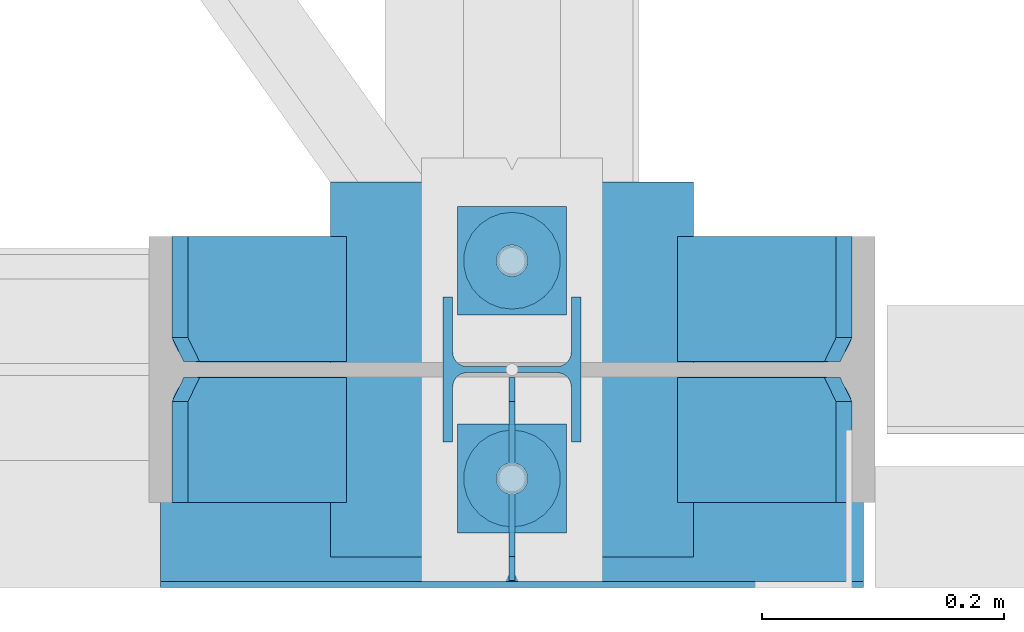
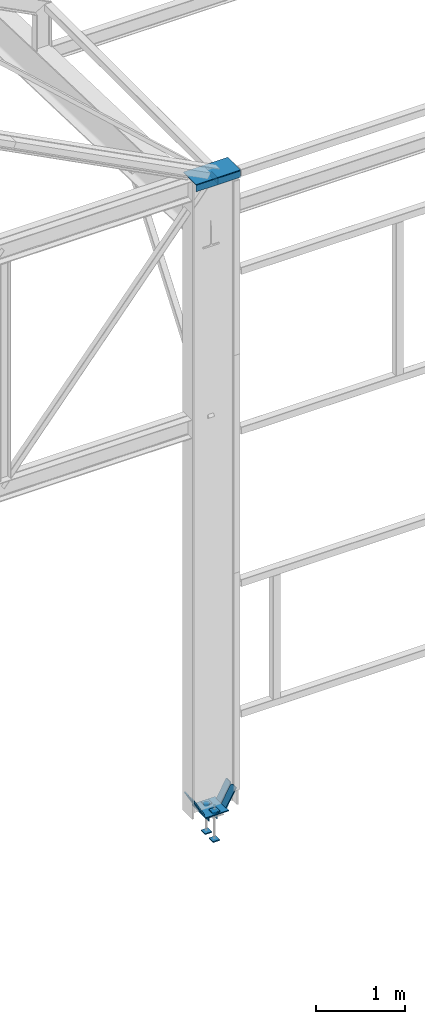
# One storey, part 80 of 123: 13 discrete accessories, 3 mechanical fasteners, 2 elements without a shape of their own.
"""IFC2X3 building model written with IfcOpenShell, lengths in millimetres."""

from ifc_helpers import new_model, si_unit, frame, origin_with_axes, origin_2d_with_axis, place, context, subcontext, project, spatial, polyline, rectangle, circle, i_section, outline, extrude, boolean, source, transform, mapped, material, type_object, element, aggregate, save


model = new_model("IFC2X3")

# Units and contexts
model_context = context("Model", 3, precision=1e-05, world=origin_with_axes())
body_context = subcontext(model_context, "Body", "Model", "MODEL_VIEW")
ifc_project = project(units=[si_unit("LENGTHUNIT", "METRE", prefix="MILLI"), si_unit("AREAUNIT", "SQUARE_METRE"), si_unit("VOLUMEUNIT", "CUBIC_METRE"), si_unit("MASSUNIT", "GRAM", prefix="KILO"), si_unit("TIMEUNIT", "SECOND"), si_unit("PLANEANGLEUNIT", "RADIAN"), si_unit("SOLIDANGLEUNIT", "STERADIAN"), si_unit("THERMODYNAMICTEMPERATUREUNIT", "DEGREE_CELSIUS"), si_unit("LUMINOUSINTENSITYUNIT", "LUMEN")], contexts=[model_context])

# Site, building, storey
site_placement = place(None, origin_with_axes())
site = spatial("IfcSite", under=ifc_project, at=site_placement, Name="Undefined", CompositionType="ELEMENT")
building_placement = place(site_placement, origin_with_axes())
building = spatial("IfcBuilding", under=site, at=building_placement, Name="Undefined", CompositionType="ELEMENT")
storey_placement = place(building_placement, origin_with_axes())
storey = spatial("IfcBuildingStorey", under=building, at=storey_placement, Name="Undefined", CompositionType="ELEMENT", Elevation=0.0)

# Assembly, discrete accessory
assembly_1_placement = place(storey_placement, origin_with_axes())
assembly_1 = element("IfcElementAssembly", 1, at=assembly_1_placement, inside=storey, Name="Steel Assembly", AssemblyPlace="NOTDEFINED", PredefinedType="RIGID_FRAME")
ifc_material_1 = material(Name="STEEL/S235-E24")
discrete_accessory_type_1 = type_object("IfcDiscreteAccessoryType", Name="RAIDISSEUR")
discrete_accessory_1_placement = place(assembly_1_placement, frame((28880.0, -6.5, 8450.0), z_axis=(-1.0, 0.0, 0.0), x_axis=(0.0, -1.0, 0.0)))
discrete_accessory_1 = element("IfcDiscreteAccessory", 2, at=discrete_accessory_1_placement, type_object=discrete_accessory_type_1, material=ifc_material_1, Name="RAIDISSEUR", ObjectType="PL5*90", context=body_context, shape_type="SweptSolid", body=[
    extrude(outline(polyline([(0.0, 0.0), (168.0, 0.0), (168.0, 70.0), (148.0, 90.0), (20.000000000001, 90.0), (0.0, 70.0), (0.0, 0.0)])), frame((0.0, 0.0, -2.5), z_axis=(0.0, 0.0, 1.0), x_axis=(1.0, 0.0, 0.0)), (0.0, 0.0, 1.0), 5.0),
])

assembly_2_placement = place(storey_placement, origin_with_axes())
assembly_2 = element("IfcElementAssembly", 3, at=assembly_2_placement, inside=storey, Name="Steel Assembly", AssemblyPlace="NOTDEFINED", PredefinedType="RIGID_FRAME")
ifc_material_2 = material(Name="STEEL/S275-E28")
discrete_accessory_type_2 = type_object("IfcDiscreteAccessoryType", Name="BECHE")
discrete_accessory_2_placement = place(assembly_2_placement, frame((28879.99999991, 0.0, -260.0), z_axis=(-1.0, 0.0, 0.0), x_axis=(0.0, 0.0, -1.0)))
discrete_accessory_2 = element("IfcDiscreteAccessory", 4, at=discrete_accessory_2_placement, type_object=discrete_accessory_type_2, material=ifc_material_2, Name="BECHE", ObjectType="HEA120", context=body_context, shape_type="SweptSolid", body=[
    extrude(i_section(OverallWidth=120.0, OverallDepth=114.0, WebThickness=5.0, FlangeThickness=8.0, FilletRadius=12.0, at=origin_2d_with_axis()), frame((120.0, 0.0, 0.0), z_axis=(-1.0, 0.0, 0.0), x_axis=(0.0, -1.0, 0.0)), (0.0, 0.0, 1.0), 120.0),
])

# Mechanical fastener
ifc_material_3 = material(Name="6.8")
discrete_accessory_type_3 = type_object("IfcDiscreteAccessoryType", Name="Bolt assembly")
shared_shape_1 = source(origin_with_axes(), body_context, "Body", "SweptSolid", [
    extrude(circle(Radius=40.0, at=origin_2d_with_axis()), frame((0.0, -15.0, 0.0), z_axis=(0.0, 1.0, 0.0), x_axis=(1.0, 0.0, 0.0)), (0.0, 0.0, 1.0), 15.1),
])
mechanical_fastener_1_placement = place(assembly_1_placement, frame((28880.0, -90.0028495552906, -250.0), z_axis=(-1.0, 0.0, 0.0), x_axis=(0.0, 1.0, 0.0)))
mechanical_fastener_1 = element("IfcMechanicalFastener", 5, at=mechanical_fastener_1_placement, type_object=discrete_accessory_type_3, material=ifc_material_3, Name="Bolt assembly", NominalDiameter=30.0, NominalLength=15.0, context=body_context, shape_type="MappedRepresentation", body=[
    mapped(shared_shape_1, transform((0.0, 0.0, 0.0))),
])

mechanical_fastener_2_placement = place(assembly_1_placement, frame((28880.0, 89.9971504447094, -250.0), z_axis=(1.0, 0.0, 0.0), x_axis=(0.0, -1.0, 0.0)))
mechanical_fastener_2 = element("IfcMechanicalFastener", 6, at=mechanical_fastener_2_placement, type_object=discrete_accessory_type_3, material=ifc_material_3, Name="Bolt assembly", NominalDiameter=30.0, NominalLength=15.0, context=body_context, shape_type="MappedRepresentation", body=[
    mapped(shared_shape_1, transform((0.0, 0.0, 0.0))),
])

# Discrete accessory
discrete_accessory_type_4 = type_object("IfcDiscreteAccessoryType", Name="PLATINE")
discrete_accessory_3_placement = place(assembly_1_placement, frame((28879.9999999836, -177.5, 8540.00000000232), z_axis=(0.0, -1.0, 0.0), x_axis=(0.0, 0.0, -1.0)))
discrete_accessory_3 = element("IfcDiscreteAccessory", 7, at=discrete_accessory_3_placement, type_object=discrete_accessory_type_4, material=ifc_material_1, Name="PLATINE", ObjectType="PL5*581", context=body_context, shape_type="SweptSolid", body=[
    extrude(outline(polyline([(89.9999999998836, -290.5), (0.0, -290.5), (0.0, 290.5), (89.9999999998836, 290.5), (89.9999999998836, -290.5)])), frame((0.0, 0.0, -2.5), z_axis=(0.0, 0.0, 1.0), x_axis=(1.0, 0.0, 0.0)), (0.0, 0.0, 1.0), 5.0),
])

discrete_accessory_4_placement = place(assembly_1_placement, frame((28589.5, -35.0, 8545.0), z_axis=(0.0, 0.0, 1.0), x_axis=(1.0, 0.0, 0.0)))
discrete_accessory_4 = element("IfcDiscreteAccessory", 8, at=discrete_accessory_4_placement, type_object=discrete_accessory_type_4, material=ifc_material_1, Name="PLATINE", ObjectType="PL10*290", context=body_context, shape_type="SweptSolid", body=[
    extrude(outline(polyline([(0.0, -145.0), (0.0, 145.0), (581.0, 145.0), (581.0, -145.0), (0.0, -145.0)])), frame((0.0, 0.0, -5.0), z_axis=(0.0, 0.0, 1.0), x_axis=(1.0, 0.0, 0.0)), (0.0, 0.0, 1.0), 10.0),
])

discrete_accessory_5_placement = place(assembly_1_placement, frame((29154.4453293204, 58.25, 3.65178558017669), z_axis=(0.0, 1.0, 0.0), x_axis=(-0.486904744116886, 0.0, -0.873455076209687)))
discrete_accessory_5 = element("IfcDiscreteAccessory", 9, at=discrete_accessory_5_placement, type_object=discrete_accessory_type_4, material=ifc_material_1, Name="PLATINE", ObjectType="PL15*103.5", context=body_context, shape_type="CSG", body=[
    boolean("DIFFERENCE", extrude(rectangle(XDim=15.0, YDim=103.5, at=origin_2d_with_axis()), frame((269.046464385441, -1.49350789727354e-14, 0.0), z_axis=(-1.0, 0.0, 0.0), x_axis=(0.0, -1.0, 0.0)), (0.0, 0.0, 1.0), 269.0), extrude(outline(polyline([(0.0, 0.0), (19.999999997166, 0.0), (20.0000000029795, 20.0), (0.0, 0.0)])), frame((20.0000000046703, -10.4999999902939, -51.75), z_axis=(0.0, 1.0, 0.0), x_axis=(-1.0, 0.0, 0.0)), (0.0, 0.0, 1.0), 21.0)),
])

discrete_accessory_6_placement = place(assembly_1_placement, frame((29154.4453293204, -58.25, 3.65178558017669), z_axis=(0.0, 1.0, 0.0), x_axis=(-0.486904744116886, 0.0, -0.873455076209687)))
discrete_accessory_6 = element("IfcDiscreteAccessory", 10, at=discrete_accessory_6_placement, type_object=discrete_accessory_type_4, material=ifc_material_1, Name="PLATINE", ObjectType="PL15*103.5", context=body_context, shape_type="CSG", body=[
    boolean("DIFFERENCE", extrude(rectangle(XDim=15.0, YDim=103.5, at=origin_2d_with_axis()), frame((269.046464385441, -1.49350789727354e-14, 0.0), z_axis=(-1.0, 0.0, 0.0), x_axis=(0.0, -1.0, 0.0)), (0.0, 0.0, 1.0), 269.0), extrude(outline(polyline([(0.0, 0.0), (28.2842712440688, -2.00088834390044e-11), (14.1421356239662, 14.1421356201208), (0.0, 0.0)])), frame((20.0000000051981, -10.4999999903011, 51.7500000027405), z_axis=(0.0, 1.0, 0.0), x_axis=(-0.707106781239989, -7.80642606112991e-10, -0.707106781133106)), (0.0, 0.0, 1.0), 21.0)),
])

discrete_accessory_7_placement = place(assembly_1_placement, frame((28605.550913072, 58.25, 3.65178558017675), z_axis=(0.0, 1.0, 0.0), x_axis=(0.486904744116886, 0.0, -0.873455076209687)))
discrete_accessory_7 = element("IfcDiscreteAccessory", 11, at=discrete_accessory_7_placement, type_object=discrete_accessory_type_4, material=ifc_material_1, Name="PLATINE", ObjectType="PL15*103.5", context=body_context, shape_type="CSG", body=[
    boolean("DIFFERENCE", extrude(rectangle(XDim=15.0, YDim=103.5, at=origin_2d_with_axis()), frame((269.046464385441, -1.49350789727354e-14, 0.0), z_axis=(-1.0, 0.0, 0.0), x_axis=(0.0, -1.0, 0.0)), (0.0, 0.0, 1.0), 269.0), extrude(outline(polyline([(0.0, 0.0), (19.999999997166, 0.0), (20.0000000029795, 20.0), (0.0, 0.0)])), frame((20.0000000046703, -10.4999999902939, -51.75), z_axis=(0.0, 1.0, 0.0), x_axis=(-1.0, 0.0, 0.0)), (0.0, 0.0, 1.0), 21.0)),
])

discrete_accessory_8_placement = place(assembly_1_placement, frame((28605.550913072, -58.25, 3.65178558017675), z_axis=(0.0, 1.0, 0.0), x_axis=(0.486904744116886, 0.0, -0.873455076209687)))
discrete_accessory_8 = element("IfcDiscreteAccessory", 12, at=discrete_accessory_8_placement, type_object=discrete_accessory_type_4, material=ifc_material_1, Name="PLATINE", ObjectType="PL15*103.5", context=body_context, shape_type="CSG", body=[
    boolean("DIFFERENCE", extrude(rectangle(XDim=15.0, YDim=103.5, at=origin_2d_with_axis()), frame((269.046464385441, -1.49350789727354e-14, 0.0), z_axis=(-1.0, 0.0, 0.0), x_axis=(0.0, -1.0, 0.0)), (0.0, 0.0, 1.0), 269.0), extrude(outline(polyline([(0.0, 0.0), (28.2842712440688, -2.00088834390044e-11), (14.1421356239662, 14.1421356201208), (0.0, 0.0)])), frame((20.0000000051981, -10.4999999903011, 51.7500000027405), z_axis=(0.0, 1.0, 0.0), x_axis=(-0.707106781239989, -7.80642606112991e-10, -0.707106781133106)), (0.0, 0.0, 1.0), 21.0)),
])

discrete_accessory_9_placement = place(assembly_1_placement, frame((28880.0, 154.997150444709, -242.5), z_axis=(0.0, 0.0, 1.0), x_axis=(0.0, -1.0, 0.0)))
discrete_accessory_9 = element("IfcDiscreteAccessory", 13, at=discrete_accessory_9_placement, type_object=discrete_accessory_type_4, material=ifc_material_1, Name="PLATINE", ObjectType="PL15*300", context=body_context, shape_type="SweptSolid", body=[
    extrude(outline(polyline([(310.0, -150.0), (0.0, -150.0), (0.0, 150.0), (310.0, 150.0), (310.0, -150.0)])), frame((0.0, 0.0, -7.5), z_axis=(0.0, 0.0, 1.0), x_axis=(1.0, 0.0, 0.0)), (0.0, 0.0, 1.0), 15.0),
])

aggregate(assembly_1, [discrete_accessory_1, discrete_accessory_3, discrete_accessory_4, mechanical_fastener_1, mechanical_fastener_2, discrete_accessory_5, discrete_accessory_6, discrete_accessory_7, discrete_accessory_8, discrete_accessory_9])

# Mechanical fastener
shared_shape_2 = source(origin_with_axes(), body_context, "Body", "SweptSolid", [
    extrude(circle(Radius=13.0, at=origin_2d_with_axis()), frame((0.0, 0.0, 0.0), z_axis=(0.0, 1.0, 0.0), x_axis=(1.0, 0.0, 0.0)), (0.0, 0.0, 1.0), 10.1),
])
mechanical_fastener_3_placement = place(assembly_2_placement, frame((28880.0, 7.34107743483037e-08, -250.0), z_axis=(0.0, -1.0, 0.0), x_axis=(-1.0, 0.0, 0.0)))
mechanical_fastener_3 = element("IfcMechanicalFastener", 14, at=mechanical_fastener_3_placement, type_object=discrete_accessory_type_3, material=ifc_material_3, Name="Bolt assembly", NominalDiameter=24.0, NominalLength=10.0, context=body_context, shape_type="MappedRepresentation", body=[
    mapped(shared_shape_2, transform((-4.00177668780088e-11, 0.0, -90.0))),
    mapped(shared_shape_2, transform((4.00177668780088e-11, 0.0, 90.0))),
])

# Discrete accessory
discrete_accessory_type_5 = type_object("IfcDiscreteAccessoryType", Name="PLAQUETTE")
discrete_accessory_10_placement = place(assembly_2_placement, frame((28925.0, -45.0028495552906, -227.5), z_axis=(0.0, 0.0, 1.0), x_axis=(-1.0, 0.0, 0.0)))
discrete_accessory_10 = element("IfcDiscreteAccessory", 15, at=discrete_accessory_10_placement, type_object=discrete_accessory_type_5, material=ifc_material_1, Name="PLAQUETTE", ObjectType="PL15*90", context=body_context, shape_type="SweptSolid", body=[
    extrude(outline(polyline([(0.0, 0.0), (90.0, 0.0), (90.0, 90.0), (0.0, 90.0), (0.0, 0.0)])), frame((0.0, 0.0, -7.5), z_axis=(0.0, 0.0, 1.0), x_axis=(1.0, 0.0, 0.0)), (0.0, 0.0, 1.0), 15.0),
])

discrete_accessory_11_placement = place(assembly_2_placement, frame((28925.0, 134.997150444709, -227.5), z_axis=(0.0, 0.0, 1.0), x_axis=(-1.0, 0.0, 0.0)))
discrete_accessory_11 = element("IfcDiscreteAccessory", 16, at=discrete_accessory_11_placement, type_object=discrete_accessory_type_5, material=ifc_material_1, Name="PLAQUETTE", ObjectType="PL15*90", context=body_context, shape_type="SweptSolid", body=[
    extrude(outline(polyline([(0.0, 0.0), (90.0, 0.0), (90.0, 90.0), (0.0, 90.0), (0.0, 0.0)])), frame((0.0, 0.0, -7.5), z_axis=(0.0, 0.0, 1.0), x_axis=(1.0, 0.0, 0.0)), (0.0, 0.0, 1.0), 15.0),
])

discrete_accessory_12_placement = place(assembly_2_placement, frame((28925.0, -45.0028495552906, -622.5), z_axis=(0.0, 0.0, 1.0), x_axis=(-1.0, 0.0, 0.0)))
discrete_accessory_12 = element("IfcDiscreteAccessory", 17, at=discrete_accessory_12_placement, type_object=discrete_accessory_type_5, material=ifc_material_1, Name="PLAQUETTE", ObjectType="PL15*90", context=body_context, shape_type="SweptSolid", body=[
    extrude(outline(polyline([(0.0, 0.0), (90.0, 0.0), (90.0, 90.0), (0.0, 90.0), (0.0, 0.0)])), frame((0.0, 0.0, -7.5), z_axis=(0.0, 0.0, 1.0), x_axis=(1.0, 0.0, 0.0)), (0.0, 0.0, 1.0), 15.0),
])

discrete_accessory_13_placement = place(assembly_2_placement, frame((28925.0, 134.997150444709, -622.5), z_axis=(0.0, 0.0, 1.0), x_axis=(-1.0, 0.0, 0.0)))
discrete_accessory_13 = element("IfcDiscreteAccessory", 18, at=discrete_accessory_13_placement, type_object=discrete_accessory_type_5, material=ifc_material_1, Name="PLAQUETTE", ObjectType="PL15*90", context=body_context, shape_type="SweptSolid", body=[
    extrude(outline(polyline([(0.0, 0.0), (90.0, 0.0), (90.0, 90.0), (0.0, 90.0), (0.0, 0.0)])), frame((0.0, 0.0, -7.5), z_axis=(0.0, 0.0, 1.0), x_axis=(1.0, 0.0, 0.0)), (0.0, 0.0, 1.0), 15.0),
])

aggregate(assembly_2, [discrete_accessory_2, mechanical_fastener_3, discrete_accessory_10, discrete_accessory_11, discrete_accessory_12, discrete_accessory_13])

save(model, "model.ifc")
